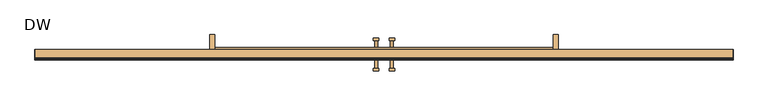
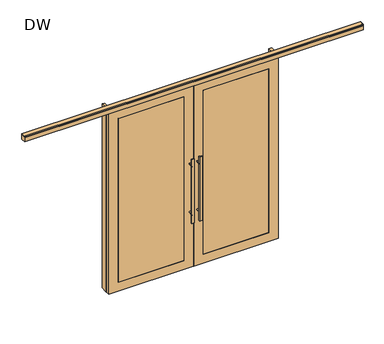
"""IFC4 building model written with IfcOpenShell, lengths in millimetres: door geometry, Mobiliário_Mobiliário de Escritório_Porta Dupla de Correr Vidro Duplo com Persiana - DW_Marelli : DW."""

from ifc_helpers import new_model, si_unit, point, frame, frame_2d, origin, origin_with_axes, place, context, project, spatial, polyline, circle_curve, trimmed, segment, composite_curve, outline, extrude, source, transform, mapped, element, save


def dw_8a9411e3(model_context):
    return source(origin(), model_context, "Body", "SweptSolid", [
        extrude(outline(polyline([(348.5735443, -15.0), (378.5735443, -15.0), (378.5735443, -100.0), (348.5735443, -100.0), (348.5735443, -15.0)])), origin_with_axes(), (0.0, 0.0, 1.0), 2300.0),
        extrude(outline(polyline([(2348.5735443, -15.0), (2348.5735443, -100.0), (2318.5735443, -100.0), (2318.5735443, -15.0), (2348.5735443, -15.0)])), origin_with_axes(), (0.0, 0.0, 1.0), 2300.0),
        extrude(outline(polyline([(1287.4735443, -223.7), (1287.4735443, -208.7), (1317.4735443, -208.7), (1317.4735443, -223.7), (1287.4735443, -223.7)])), frame((0.0, 0.0, 600.0), z_axis=(0.0, 0.0, 1.0), x_axis=(1.0, 0.0, 0.0)), (0.0, 0.0, 1.0), 800.0),
        extrude(outline(composite_curve([segment(trimmed(circle_curve(frame_2d((698.0, 1303.6014077)), 8.0), [point((698.0, 1295.6014077))], [point((698.0, 1311.6014077))], False, "CARTESIAN"), True, "CONTINUOUS"), segment(trimmed(circle_curve(frame_2d((698.0, 1303.6014077)), 8.0), [point((698.0, 1311.6014077))], [point((698.0, 1295.6014077))], False, "CARTESIAN"), True, "CONTINUOUS")], self_intersect=False)), frame((0.0, -208.7, 0.0), z_axis=(0.0, 1.0, 0.0), x_axis=(0.0, 0.0, 1.0)), (0.0, 0.0, 1.0), 58.7),
        extrude(outline(composite_curve([segment(trimmed(circle_curve(frame_2d((1302.0, 1303.6014077)), 8.0), [point((1302.0, 1295.6014077))], [point((1302.0, 1311.6014077))], False, "CARTESIAN"), True, "CONTINUOUS"), segment(trimmed(circle_curve(frame_2d((1302.0, 1303.6014077)), 8.0), [point((1302.0, 1311.6014077))], [point((1302.0, 1295.6014077))], False, "CARTESIAN"), True, "CONTINUOUS")], self_intersect=False)), frame((0.0, -208.7, 0.0), z_axis=(0.0, 1.0, 0.0), x_axis=(0.0, 0.0, 1.0)), (0.0, 0.0, 1.0), 58.7),
        extrude(outline(polyline([(1287.4735443, -34.3), (1317.4735443, -34.3), (1317.4735443, -49.3), (1287.4735443, -49.3), (1287.4735443, -34.3)])), frame((0.0, 0.0, 600.0), z_axis=(0.0, 0.0, 1.0), x_axis=(1.0, 0.0, 0.0)), (0.0, 0.0, 1.0), 800.0),
        extrude(outline(composite_curve([segment(trimmed(circle_curve(frame_2d((698.0, 1303.6014077)), 8.0), [point((698.0, 1295.6014077))], [point((698.0, 1311.6014077))], False, "CARTESIAN"), True, "CONTINUOUS"), segment(trimmed(circle_curve(frame_2d((698.0, 1303.6014077)), 8.0), [point((698.0, 1311.6014077))], [point((698.0, 1295.6014077))], False, "CARTESIAN"), True, "CONTINUOUS")], self_intersect=False)), frame((0.0, -108.0, 0.0), z_axis=(0.0, 1.0, 0.0), x_axis=(0.0, 0.0, 1.0)), (0.0, 0.0, 1.0), 58.7),
        extrude(outline(composite_curve([segment(trimmed(circle_curve(frame_2d((1302.0, 1303.6014077)), 8.0), [point((1302.0, 1295.6014077))], [point((1302.0, 1311.6014077))], False, "CARTESIAN"), True, "CONTINUOUS"), segment(trimmed(circle_curve(frame_2d((1302.0, 1303.6014077)), 8.0), [point((1302.0, 1311.6014077))], [point((1302.0, 1295.6014077))], False, "CARTESIAN"), True, "CONTINUOUS")], self_intersect=False)), frame((0.0, -108.0, 0.0), z_axis=(0.0, 1.0, 0.0), x_axis=(0.0, 0.0, 1.0)), (0.0, 0.0, 1.0), 58.7),
        extrude(outline(polyline([(1409.6735443, -223.7), (1379.6735443, -223.7), (1379.6735443, -208.7), (1409.6735443, -208.7), (1409.6735443, -223.7)])), frame((0.0, 0.0, 600.0), z_axis=(0.0, 0.0, 1.0), x_axis=(1.0, 0.0, 0.0)), (0.0, 0.0, 1.0), 800.0),
        extrude(outline(composite_curve([segment(trimmed(circle_curve(frame_2d((698.0, 1393.545681)), 8.0), [point((698.0, 1401.545681))], [point((698.0, 1385.545681))], False, "CARTESIAN"), True, "CONTINUOUS"), segment(trimmed(circle_curve(frame_2d((698.0, 1393.545681)), 8.0), [point((698.0, 1385.545681))], [point((698.0, 1401.545681))], False, "CARTESIAN"), True, "CONTINUOUS")], self_intersect=False)), frame((0.0, -208.7, 0.0), z_axis=(0.0, 1.0, 0.0), x_axis=(0.0, 0.0, 1.0)), (0.0, 0.0, 1.0), 58.7),
        extrude(outline(composite_curve([segment(trimmed(circle_curve(frame_2d((1302.0, 1393.545681)), 8.0), [point((1302.0, 1401.545681))], [point((1302.0, 1385.545681))], False, "CARTESIAN"), True, "CONTINUOUS"), segment(trimmed(circle_curve(frame_2d((1302.0, 1393.545681)), 8.0), [point((1302.0, 1385.545681))], [point((1302.0, 1401.545681))], False, "CARTESIAN"), True, "CONTINUOUS")], self_intersect=False)), frame((0.0, -208.7, 0.0), z_axis=(0.0, 1.0, 0.0), x_axis=(0.0, 0.0, 1.0)), (0.0, 0.0, 1.0), 58.7),
        extrude(outline(polyline([(1409.6735443, -34.3), (1409.6735443, -49.3), (1379.6735443, -49.3), (1379.6735443, -34.3), (1409.6735443, -34.3)])), frame((0.0, 0.0, 600.0), z_axis=(0.0, 0.0, 1.0), x_axis=(1.0, 0.0, 0.0)), (0.0, 0.0, 1.0), 800.0),
        extrude(outline(composite_curve([segment(trimmed(circle_curve(frame_2d((698.0, 1393.545681)), 8.0), [point((698.0, 1401.545681))], [point((698.0, 1385.545681))], False, "CARTESIAN"), True, "CONTINUOUS"), segment(trimmed(circle_curve(frame_2d((698.0, 1393.545681)), 8.0), [point((698.0, 1385.545681))], [point((698.0, 1401.545681))], False, "CARTESIAN"), True, "CONTINUOUS")], self_intersect=False)), frame((0.0, -108.0, 0.0), z_axis=(0.0, 1.0, 0.0), x_axis=(0.0, 0.0, 1.0)), (0.0, 0.0, 1.0), 58.7),
        extrude(outline(composite_curve([segment(trimmed(circle_curve(frame_2d((1302.0, 1393.545681)), 8.0), [point((1302.0, 1401.545681))], [point((1302.0, 1385.545681))], False, "CARTESIAN"), True, "CONTINUOUS"), segment(trimmed(circle_curve(frame_2d((1302.0, 1393.545681)), 8.0), [point((1302.0, 1385.545681))], [point((1302.0, 1401.545681))], False, "CARTESIAN"), True, "CONTINUOUS")], self_intersect=False)), frame((0.0, -108.0, 0.0), z_axis=(0.0, 1.0, 0.0), x_axis=(0.0, 0.0, 1.0)), (0.0, 0.0, 1.0), 58.7),
        extrude(outline(polyline([(2270.0, 348.5735443), (2.0, 348.5735443), (2.0, 1345.5735443), (2270.0, 1345.5735443), (2270.0, 348.5735443)]), holes=[polyline([(2160.0, 1235.5735443), (112.0, 1235.5735443), (112.0, 458.5735443), (2160.0, 458.5735443), (2160.0, 1235.5735443)])]), frame((0.0, -150.0, 0.0), z_axis=(0.0, 1.0, 0.0), x_axis=(0.0, 0.0, 1.0)), (0.0, 0.0, 1.0), 42.0),
        extrude(outline(polyline([(2270.0, 1351.5735443), (2.0, 1351.5735443), (2.0, 2348.5735443), (2270.0, 2348.5735443), (2270.0, 1351.5735443)]), holes=[polyline([(2160.0, 2238.5735443), (112.0, 2238.5735443), (112.0, 1461.5735443), (2160.0, 1461.5735443), (2160.0, 2238.5735443)])]), frame((0.0, -150.0, 0.0), z_axis=(0.0, 1.0, 0.0), x_axis=(0.0, 0.0, 1.0)), (0.0, 0.0, 1.0), 42.0),
        extrude(outline(polyline([(1235.5735443, -141.5), (1235.5735443, -147.5), (458.5735443, -147.5), (458.5735443, -141.5), (1235.5735443, -141.5)])), frame((0.0, 0.0, 112.0), z_axis=(0.0, 0.0, 1.0), x_axis=(1.0, 0.0, 0.0)), (0.0, 0.0, 1.0), 2048.0),
        extrude(outline(polyline([(1235.5735443, -116.5), (458.5735443, -116.5), (458.5735443, -110.5), (1235.5735443, -110.5), (1235.5735443, -116.5)])), frame((0.0, 0.0, 112.0), z_axis=(0.0, 0.0, 1.0), x_axis=(1.0, 0.0, 0.0)), (0.0, 0.0, 1.0), 2048.0),
        extrude(outline(polyline([(1461.5735443, -141.5), (2238.5735443, -141.5), (2238.5735443, -147.5), (1461.5735443, -147.5), (1461.5735443, -141.5)])), frame((0.0, 0.0, 112.0), z_axis=(0.0, 0.0, 1.0), x_axis=(1.0, 0.0, 0.0)), (0.0, 0.0, 1.0), 2048.0),
        extrude(outline(polyline([(1461.5735443, -116.5), (1461.5735443, -110.5), (2238.5735443, -110.5), (2238.5735443, -116.5), (1461.5735443, -116.5)])), frame((0.0, 0.0, 112.0), z_axis=(0.0, 0.0, 1.0), x_axis=(1.0, 0.0, 0.0)), (0.0, 0.0, 1.0), 2048.0),
        extrude(outline(polyline([(1235.5735443, -122.1216022), (1235.5735443, -138.1216022), (458.5735443, -138.1216022), (458.5735443, -122.1216022), (1235.5735443, -122.1216022)])), frame((0.0, 0.0, 1181.2), z_axis=(0.0, 0.0, 1.0), x_axis=(1.0, 0.0, 0.0)), (0.0, 0.0, 1.0), 0.8),
        extrude(outline(polyline([(1235.5735443, -122.1216022), (1235.5735443, -138.1216022), (458.5735443, -138.1216022), (458.5735443, -122.1216022), (1235.5735443, -122.1216022)])), frame((0.0, 0.0, 1151.2), z_axis=(0.0, 0.0, 1.0), x_axis=(1.0, 0.0, 0.0)), (0.0, 0.0, 1.0), 0.8),
        extrude(outline(polyline([(1235.5735443, -122.1216022), (1235.5735443, -138.1216022), (458.5735443, -138.1216022), (458.5735443, -122.1216022), (1235.5735443, -122.1216022)])), frame((0.0, 0.0, 1121.2), z_axis=(0.0, 0.0, 1.0), x_axis=(1.0, 0.0, 0.0)), (0.0, 0.0, 1.0), 0.8),
        extrude(outline(polyline([(1235.5735443, -122.1216022), (1235.5735443, -138.1216022), (458.5735443, -138.1216022), (458.5735443, -122.1216022), (1235.5735443, -122.1216022)])), frame((0.0, 0.0, 1091.2), z_axis=(0.0, 0.0, 1.0), x_axis=(1.0, 0.0, 0.0)), (0.0, 0.0, 1.0), 0.8),
        extrude(outline(polyline([(1235.5735443, -122.1216022), (1235.5735443, -138.1216022), (458.5735443, -138.1216022), (458.5735443, -122.1216022), (1235.5735443, -122.1216022)])), frame((0.0, 0.0, 1061.2), z_axis=(0.0, 0.0, 1.0), x_axis=(1.0, 0.0, 0.0)), (0.0, 0.0, 1.0), 0.8),
        extrude(outline(polyline([(1235.5735443, -122.1216022), (1235.5735443, -138.1216022), (458.5735443, -138.1216022), (458.5735443, -122.1216022), (1235.5735443, -122.1216022)])), frame((0.0, 0.0, 1031.2), z_axis=(0.0, 0.0, 1.0), x_axis=(1.0, 0.0, 0.0)), (0.0, 0.0, 1.0), 0.8),
        extrude(outline(polyline([(1235.5735443, -122.1216022), (1235.5735443, -138.1216022), (458.5735443, -138.1216022), (458.5735443, -122.1216022), (1235.5735443, -122.1216022)])), frame((0.0, 0.0, 1001.2), z_axis=(0.0, 0.0, 1.0), x_axis=(1.0, 0.0, 0.0)), (0.0, 0.0, 1.0), 0.8),
        extrude(outline(polyline([(1235.5735443, -122.1216022), (1235.5735443, -138.1216022), (458.5735443, -138.1216022), (458.5735443, -122.1216022), (1235.5735443, -122.1216022)])), frame((0.0, 0.0, 971.2), z_axis=(0.0, 0.0, 1.0), x_axis=(1.0, 0.0, 0.0)), (0.0, 0.0, 1.0), 0.8),
        extrude(outline(polyline([(1235.5735443, -122.1216022), (1235.5735443, -138.1216022), (458.5735443, -138.1216022), (458.5735443, -122.1216022), (1235.5735443, -122.1216022)])), frame((0.0, 0.0, 911.2), z_axis=(0.0, 0.0, 1.0), x_axis=(1.0, 0.0, 0.0)), (0.0, 0.0, 1.0), 0.8),
        extrude(outline(polyline([(1235.5735443, -122.1216022), (1235.5735443, -138.1216022), (458.5735443, -138.1216022), (458.5735443, -122.1216022), (1235.5735443, -122.1216022)])), frame((0.0, 0.0, 941.2), z_axis=(0.0, 0.0, 1.0), x_axis=(1.0, 0.0, 0.0)), (0.0, 0.0, 1.0), 0.8),
        extrude(outline(polyline([(1235.5735443, -122.1216022), (1235.5735443, -138.1216022), (458.5735443, -138.1216022), (458.5735443, -122.1216022), (1235.5735443, -122.1216022)])), frame((0.0, 0.0, 221.2), z_axis=(0.0, 0.0, 1.0), x_axis=(1.0, 0.0, 0.0)), (0.0, 0.0, 1.0), 0.8),
        extrude(outline(polyline([(1235.5735443, -122.1216022), (1235.5735443, -138.1216022), (458.5735443, -138.1216022), (458.5735443, -122.1216022), (1235.5735443, -122.1216022)])), frame((0.0, 0.0, 251.2), z_axis=(0.0, 0.0, 1.0), x_axis=(1.0, 0.0, 0.0)), (0.0, 0.0, 1.0), 0.8),
        extrude(outline(polyline([(1235.5735443, -122.1216022), (1235.5735443, -138.1216022), (458.5735443, -138.1216022), (458.5735443, -122.1216022), (1235.5735443, -122.1216022)])), frame((0.0, 0.0, 281.2), z_axis=(0.0, 0.0, 1.0), x_axis=(1.0, 0.0, 0.0)), (0.0, 0.0, 1.0), 0.8),
        extrude(outline(polyline([(1235.5735443, -122.1216022), (1235.5735443, -138.1216022), (458.5735443, -138.1216022), (458.5735443, -122.1216022), (1235.5735443, -122.1216022)])), frame((0.0, 0.0, 311.2), z_axis=(0.0, 0.0, 1.0), x_axis=(1.0, 0.0, 0.0)), (0.0, 0.0, 1.0), 0.8),
        extrude(outline(polyline([(1235.5735443, -122.1216022), (1235.5735443, -138.1216022), (458.5735443, -138.1216022), (458.5735443, -122.1216022), (1235.5735443, -122.1216022)])), frame((0.0, 0.0, 341.2), z_axis=(0.0, 0.0, 1.0), x_axis=(1.0, 0.0, 0.0)), (0.0, 0.0, 1.0), 0.8),
        extrude(outline(polyline([(1235.5735443, -122.1216022), (1235.5735443, -138.1216022), (458.5735443, -138.1216022), (458.5735443, -122.1216022), (1235.5735443, -122.1216022)])), frame((0.0, 0.0, 371.2), z_axis=(0.0, 0.0, 1.0), x_axis=(1.0, 0.0, 0.0)), (0.0, 0.0, 1.0), 0.8),
        extrude(outline(polyline([(1235.5735443, -122.1216022), (1235.5735443, -138.1216022), (458.5735443, -138.1216022), (458.5735443, -122.1216022), (1235.5735443, -122.1216022)])), frame((0.0, 0.0, 401.2), z_axis=(0.0, 0.0, 1.0), x_axis=(1.0, 0.0, 0.0)), (0.0, 0.0, 1.0), 0.8),
        extrude(outline(polyline([(1235.5735443, -122.1216022), (1235.5735443, -138.1216022), (458.5735443, -138.1216022), (458.5735443, -122.1216022), (1235.5735443, -122.1216022)])), frame((0.0, 0.0, 431.2), z_axis=(0.0, 0.0, 1.0), x_axis=(1.0, 0.0, 0.0)), (0.0, 0.0, 1.0), 0.8),
        extrude(outline(polyline([(1235.5735443, -122.1216022), (1235.5735443, -138.1216022), (458.5735443, -138.1216022), (458.5735443, -122.1216022), (1235.5735443, -122.1216022)])), frame((0.0, 0.0, 461.2), z_axis=(0.0, 0.0, 1.0), x_axis=(1.0, 0.0, 0.0)), (0.0, 0.0, 1.0), 0.8),
        extrude(outline(polyline([(1235.5735443, -122.1216022), (1235.5735443, -138.1216022), (458.5735443, -138.1216022), (458.5735443, -122.1216022), (1235.5735443, -122.1216022)])), frame((0.0, 0.0, 491.2), z_axis=(0.0, 0.0, 1.0), x_axis=(1.0, 0.0, 0.0)), (0.0, 0.0, 1.0), 0.8),
        extrude(outline(polyline([(1235.5735443, -122.1216022), (1235.5735443, -138.1216022), (458.5735443, -138.1216022), (458.5735443, -122.1216022), (1235.5735443, -122.1216022)])), frame((0.0, 0.0, 521.2), z_axis=(0.0, 0.0, 1.0), x_axis=(1.0, 0.0, 0.0)), (0.0, 0.0, 1.0), 0.8),
        extrude(outline(polyline([(1235.5735443, -122.1216022), (1235.5735443, -138.1216022), (458.5735443, -138.1216022), (458.5735443, -122.1216022), (1235.5735443, -122.1216022)])), frame((0.0, 0.0, 551.2), z_axis=(0.0, 0.0, 1.0), x_axis=(1.0, 0.0, 0.0)), (0.0, 0.0, 1.0), 0.8),
        extrude(outline(polyline([(1235.5735443, -122.1216022), (1235.5735443, -138.1216022), (458.5735443, -138.1216022), (458.5735443, -122.1216022), (1235.5735443, -122.1216022)])), frame((0.0, 0.0, 581.2), z_axis=(0.0, 0.0, 1.0), x_axis=(1.0, 0.0, 0.0)), (0.0, 0.0, 1.0), 0.8),
        extrude(outline(polyline([(1235.5735443, -122.1216022), (1235.5735443, -138.1216022), (458.5735443, -138.1216022), (458.5735443, -122.1216022), (1235.5735443, -122.1216022)])), frame((0.0, 0.0, 611.2), z_axis=(0.0, 0.0, 1.0), x_axis=(1.0, 0.0, 0.0)), (0.0, 0.0, 1.0), 0.8),
        extrude(outline(polyline([(1235.5735443, -122.1216022), (1235.5735443, -138.1216022), (458.5735443, -138.1216022), (458.5735443, -122.1216022), (1235.5735443, -122.1216022)])), frame((0.0, 0.0, 641.2), z_axis=(0.0, 0.0, 1.0), x_axis=(1.0, 0.0, 0.0)), (0.0, 0.0, 1.0), 0.8),
        extrude(outline(polyline([(1235.5735443, -122.1216022), (1235.5735443, -138.1216022), (458.5735443, -138.1216022), (458.5735443, -122.1216022), (1235.5735443, -122.1216022)])), frame((0.0, 0.0, 671.2), z_axis=(0.0, 0.0, 1.0), x_axis=(1.0, 0.0, 0.0)), (0.0, 0.0, 1.0), 0.8),
        extrude(outline(polyline([(1235.5735443, -122.1216022), (1235.5735443, -138.1216022), (458.5735443, -138.1216022), (458.5735443, -122.1216022), (1235.5735443, -122.1216022)])), frame((0.0, 0.0, 701.2), z_axis=(0.0, 0.0, 1.0), x_axis=(1.0, 0.0, 0.0)), (0.0, 0.0, 1.0), 0.8),
        extrude(outline(polyline([(1235.5735443, -122.1216022), (1235.5735443, -138.1216022), (458.5735443, -138.1216022), (458.5735443, -122.1216022), (1235.5735443, -122.1216022)])), frame((0.0, 0.0, 731.2), z_axis=(0.0, 0.0, 1.0), x_axis=(1.0, 0.0, 0.0)), (0.0, 0.0, 1.0), 0.8),
        extrude(outline(polyline([(1235.5735443, -122.1216022), (1235.5735443, -138.1216022), (458.5735443, -138.1216022), (458.5735443, -122.1216022), (1235.5735443, -122.1216022)])), frame((0.0, 0.0, 761.2), z_axis=(0.0, 0.0, 1.0), x_axis=(1.0, 0.0, 0.0)), (0.0, 0.0, 1.0), 0.8),
        extrude(outline(polyline([(1235.5735443, -122.1216022), (1235.5735443, -138.1216022), (458.5735443, -138.1216022), (458.5735443, -122.1216022), (1235.5735443, -122.1216022)])), frame((0.0, 0.0, 791.2), z_axis=(0.0, 0.0, 1.0), x_axis=(1.0, 0.0, 0.0)), (0.0, 0.0, 1.0), 0.8),
        extrude(outline(polyline([(1235.5735443, -122.1216022), (1235.5735443, -138.1216022), (458.5735443, -138.1216022), (458.5735443, -122.1216022), (1235.5735443, -122.1216022)])), frame((0.0, 0.0, 821.2), z_axis=(0.0, 0.0, 1.0), x_axis=(1.0, 0.0, 0.0)), (0.0, 0.0, 1.0), 0.8),
        extrude(outline(polyline([(1235.5735443, -122.1216022), (1235.5735443, -138.1216022), (458.5735443, -138.1216022), (458.5735443, -122.1216022), (1235.5735443, -122.1216022)])), frame((0.0, 0.0, 851.2), z_axis=(0.0, 0.0, 1.0), x_axis=(1.0, 0.0, 0.0)), (0.0, 0.0, 1.0), 0.8),
        extrude(outline(polyline([(1235.5735443, -122.1216022), (1235.5735443, -138.1216022), (458.5735443, -138.1216022), (458.5735443, -122.1216022), (1235.5735443, -122.1216022)])), frame((0.0, 0.0, 881.2), z_axis=(0.0, 0.0, 1.0), x_axis=(1.0, 0.0, 0.0)), (0.0, 0.0, 1.0), 0.8),
        extrude(outline(polyline([(1235.5735443, -122.1216022), (1235.5735443, -138.1216022), (458.5735443, -138.1216022), (458.5735443, -122.1216022), (1235.5735443, -122.1216022)])), frame((0.0, 0.0, 191.2), z_axis=(0.0, 0.0, 1.0), x_axis=(1.0, 0.0, 0.0)), (0.0, 0.0, 1.0), 0.8),
        extrude(outline(polyline([(1235.5735443, -122.1216022), (1235.5735443, -138.1216022), (458.5735443, -138.1216022), (458.5735443, -122.1216022), (1235.5735443, -122.1216022)])), frame((0.0, 0.0, 161.2), z_axis=(0.0, 0.0, 1.0), x_axis=(1.0, 0.0, 0.0)), (0.0, 0.0, 1.0), 0.8),
        extrude(outline(polyline([(1235.5735443, -122.1216022), (1235.5735443, -138.1216022), (458.5735443, -138.1216022), (458.5735443, -122.1216022), (1235.5735443, -122.1216022)])), frame((0.0, 0.0, 131.2), z_axis=(0.0, 0.0, 1.0), x_axis=(1.0, 0.0, 0.0)), (0.0, 0.0, 1.0), 0.8),
        extrude(outline(polyline([(1235.5735443, -122.1216022), (1235.5735443, -138.1216022), (458.5735443, -138.1216022), (458.5735443, -122.1216022), (1235.5735443, -122.1216022)])), frame((0.0, 0.0, 2111.2), z_axis=(0.0, 0.0, 1.0), x_axis=(1.0, 0.0, 0.0)), (0.0, 0.0, 1.0), 0.8),
        extrude(outline(polyline([(1235.5735443, -122.1216022), (1235.5735443, -138.1216022), (458.5735443, -138.1216022), (458.5735443, -122.1216022), (1235.5735443, -122.1216022)])), frame((0.0, 0.0, 2081.2), z_axis=(0.0, 0.0, 1.0), x_axis=(1.0, 0.0, 0.0)), (0.0, 0.0, 1.0), 0.8),
        extrude(outline(polyline([(1235.5735443, -122.1216022), (1235.5735443, -138.1216022), (458.5735443, -138.1216022), (458.5735443, -122.1216022), (1235.5735443, -122.1216022)])), frame((0.0, 0.0, 2051.2), z_axis=(0.0, 0.0, 1.0), x_axis=(1.0, 0.0, 0.0)), (0.0, 0.0, 1.0), 0.8),
        extrude(outline(polyline([(1235.5735443, -122.1216022), (1235.5735443, -138.1216022), (458.5735443, -138.1216022), (458.5735443, -122.1216022), (1235.5735443, -122.1216022)])), frame((0.0, 0.0, 2021.2), z_axis=(0.0, 0.0, 1.0), x_axis=(1.0, 0.0, 0.0)), (0.0, 0.0, 1.0), 0.8),
        extrude(outline(polyline([(1235.5735443, -122.1216022), (1235.5735443, -138.1216022), (458.5735443, -138.1216022), (458.5735443, -122.1216022), (1235.5735443, -122.1216022)])), frame((0.0, 0.0, 1991.2), z_axis=(0.0, 0.0, 1.0), x_axis=(1.0, 0.0, 0.0)), (0.0, 0.0, 1.0), 0.8),
        extrude(outline(polyline([(1235.5735443, -122.1216022), (1235.5735443, -138.1216022), (458.5735443, -138.1216022), (458.5735443, -122.1216022), (1235.5735443, -122.1216022)])), frame((0.0, 0.0, 1961.2), z_axis=(0.0, 0.0, 1.0), x_axis=(1.0, 0.0, 0.0)), (0.0, 0.0, 1.0), 0.8),
        extrude(outline(polyline([(1235.5735443, -122.1216022), (1235.5735443, -138.1216022), (458.5735443, -138.1216022), (458.5735443, -122.1216022), (1235.5735443, -122.1216022)])), frame((0.0, 0.0, 1931.2), z_axis=(0.0, 0.0, 1.0), x_axis=(1.0, 0.0, 0.0)), (0.0, 0.0, 1.0), 0.8),
        extrude(outline(polyline([(1235.5735443, -122.1216022), (1235.5735443, -138.1216022), (458.5735443, -138.1216022), (458.5735443, -122.1216022), (1235.5735443, -122.1216022)])), frame((0.0, 0.0, 1901.2), z_axis=(0.0, 0.0, 1.0), x_axis=(1.0, 0.0, 0.0)), (0.0, 0.0, 1.0), 0.8),
        extrude(outline(polyline([(1235.5735443, -122.1216022), (1235.5735443, -138.1216022), (458.5735443, -138.1216022), (458.5735443, -122.1216022), (1235.5735443, -122.1216022)])), frame((0.0, 0.0, 1871.2), z_axis=(0.0, 0.0, 1.0), x_axis=(1.0, 0.0, 0.0)), (0.0, 0.0, 1.0), 0.8),
        extrude(outline(polyline([(1235.5735443, -122.1216022), (1235.5735443, -138.1216022), (458.5735443, -138.1216022), (458.5735443, -122.1216022), (1235.5735443, -122.1216022)])), frame((0.0, 0.0, 1841.2), z_axis=(0.0, 0.0, 1.0), x_axis=(1.0, 0.0, 0.0)), (0.0, 0.0, 1.0), 0.8),
        extrude(outline(polyline([(1235.5735443, -122.1216022), (1235.5735443, -138.1216022), (458.5735443, -138.1216022), (458.5735443, -122.1216022), (1235.5735443, -122.1216022)])), frame((0.0, 0.0, 1811.2), z_axis=(0.0, 0.0, 1.0), x_axis=(1.0, 0.0, 0.0)), (0.0, 0.0, 1.0), 0.8),
        extrude(outline(polyline([(1235.5735443, -122.1216022), (1235.5735443, -138.1216022), (458.5735443, -138.1216022), (458.5735443, -122.1216022), (1235.5735443, -122.1216022)])), frame((0.0, 0.0, 1781.2), z_axis=(0.0, 0.0, 1.0), x_axis=(1.0, 0.0, 0.0)), (0.0, 0.0, 1.0), 0.8),
        extrude(outline(polyline([(1235.5735443, -122.1216022), (1235.5735443, -138.1216022), (458.5735443, -138.1216022), (458.5735443, -122.1216022), (1235.5735443, -122.1216022)])), frame((0.0, 0.0, 1751.2), z_axis=(0.0, 0.0, 1.0), x_axis=(1.0, 0.0, 0.0)), (0.0, 0.0, 1.0), 0.8),
        extrude(outline(polyline([(1235.5735443, -122.1216022), (1235.5735443, -138.1216022), (458.5735443, -138.1216022), (458.5735443, -122.1216022), (1235.5735443, -122.1216022)])), frame((0.0, 0.0, 1721.2), z_axis=(0.0, 0.0, 1.0), x_axis=(1.0, 0.0, 0.0)), (0.0, 0.0, 1.0), 0.8),
        extrude(outline(polyline([(1235.5735443, -122.1216022), (1235.5735443, -138.1216022), (458.5735443, -138.1216022), (458.5735443, -122.1216022), (1235.5735443, -122.1216022)])), frame((0.0, 0.0, 1691.2), z_axis=(0.0, 0.0, 1.0), x_axis=(1.0, 0.0, 0.0)), (0.0, 0.0, 1.0), 0.8),
        extrude(outline(polyline([(1235.5735443, -122.1216022), (1235.5735443, -138.1216022), (458.5735443, -138.1216022), (458.5735443, -122.1216022), (1235.5735443, -122.1216022)])), frame((0.0, 0.0, 1661.2), z_axis=(0.0, 0.0, 1.0), x_axis=(1.0, 0.0, 0.0)), (0.0, 0.0, 1.0), 0.8),
        extrude(outline(polyline([(1235.5735443, -122.1216022), (1235.5735443, -138.1216022), (458.5735443, -138.1216022), (458.5735443, -122.1216022), (1235.5735443, -122.1216022)])), frame((0.0, 0.0, 1631.2), z_axis=(0.0, 0.0, 1.0), x_axis=(1.0, 0.0, 0.0)), (0.0, 0.0, 1.0), 0.8),
        extrude(outline(polyline([(1235.5735443, -122.1216022), (1235.5735443, -138.1216022), (458.5735443, -138.1216022), (458.5735443, -122.1216022), (1235.5735443, -122.1216022)])), frame((0.0, 0.0, 1601.2), z_axis=(0.0, 0.0, 1.0), x_axis=(1.0, 0.0, 0.0)), (0.0, 0.0, 1.0), 0.8),
        extrude(outline(polyline([(1235.5735443, -122.1216022), (1235.5735443, -138.1216022), (458.5735443, -138.1216022), (458.5735443, -122.1216022), (1235.5735443, -122.1216022)])), frame((0.0, 0.0, 1571.2), z_axis=(0.0, 0.0, 1.0), x_axis=(1.0, 0.0, 0.0)), (0.0, 0.0, 1.0), 0.8),
        extrude(outline(polyline([(1235.5735443, -122.1216022), (1235.5735443, -138.1216022), (458.5735443, -138.1216022), (458.5735443, -122.1216022), (1235.5735443, -122.1216022)])), frame((0.0, 0.0, 1541.2), z_axis=(0.0, 0.0, 1.0), x_axis=(1.0, 0.0, 0.0)), (0.0, 0.0, 1.0), 0.8),
        extrude(outline(polyline([(1235.5735443, -122.1216022), (1235.5735443, -138.1216022), (458.5735443, -138.1216022), (458.5735443, -122.1216022), (1235.5735443, -122.1216022)])), frame((0.0, 0.0, 1511.2), z_axis=(0.0, 0.0, 1.0), x_axis=(1.0, 0.0, 0.0)), (0.0, 0.0, 1.0), 0.8),
        extrude(outline(polyline([(1235.5735443, -122.1216022), (1235.5735443, -138.1216022), (458.5735443, -138.1216022), (458.5735443, -122.1216022), (1235.5735443, -122.1216022)])), frame((0.0, 0.0, 1481.2), z_axis=(0.0, 0.0, 1.0), x_axis=(1.0, 0.0, 0.0)), (0.0, 0.0, 1.0), 0.8),
        extrude(outline(polyline([(1235.5735443, -122.1216022), (1235.5735443, -138.1216022), (458.5735443, -138.1216022), (458.5735443, -122.1216022), (1235.5735443, -122.1216022)])), frame((0.0, 0.0, 1451.2), z_axis=(0.0, 0.0, 1.0), x_axis=(1.0, 0.0, 0.0)), (0.0, 0.0, 1.0), 0.8),
        extrude(outline(polyline([(1235.5735443, -122.1216022), (1235.5735443, -138.1216022), (458.5735443, -138.1216022), (458.5735443, -122.1216022), (1235.5735443, -122.1216022)])), frame((0.0, 0.0, 1421.2), z_axis=(0.0, 0.0, 1.0), x_axis=(1.0, 0.0, 0.0)), (0.0, 0.0, 1.0), 0.8),
        extrude(outline(polyline([(1235.5735443, -122.1216022), (1235.5735443, -138.1216022), (458.5735443, -138.1216022), (458.5735443, -122.1216022), (1235.5735443, -122.1216022)])), frame((0.0, 0.0, 1391.2), z_axis=(0.0, 0.0, 1.0), x_axis=(1.0, 0.0, 0.0)), (0.0, 0.0, 1.0), 0.8),
        extrude(outline(polyline([(1235.5735443, -122.1216022), (1235.5735443, -138.1216022), (458.5735443, -138.1216022), (458.5735443, -122.1216022), (1235.5735443, -122.1216022)])), frame((0.0, 0.0, 1361.2), z_axis=(0.0, 0.0, 1.0), x_axis=(1.0, 0.0, 0.0)), (0.0, 0.0, 1.0), 0.8),
        extrude(outline(polyline([(1235.5735443, -122.1216022), (1235.5735443, -138.1216022), (458.5735443, -138.1216022), (458.5735443, -122.1216022), (1235.5735443, -122.1216022)])), frame((0.0, 0.0, 1331.2), z_axis=(0.0, 0.0, 1.0), x_axis=(1.0, 0.0, 0.0)), (0.0, 0.0, 1.0), 0.8),
        extrude(outline(polyline([(1235.5735443, -122.1216022), (1235.5735443, -138.1216022), (458.5735443, -138.1216022), (458.5735443, -122.1216022), (1235.5735443, -122.1216022)])), frame((0.0, 0.0, 1301.2), z_axis=(0.0, 0.0, 1.0), x_axis=(1.0, 0.0, 0.0)), (0.0, 0.0, 1.0), 0.8),
        extrude(outline(polyline([(1235.5735443, -122.1216022), (1235.5735443, -138.1216022), (458.5735443, -138.1216022), (458.5735443, -122.1216022), (1235.5735443, -122.1216022)])), frame((0.0, 0.0, 1271.2), z_axis=(0.0, 0.0, 1.0), x_axis=(1.0, 0.0, 0.0)), (0.0, 0.0, 1.0), 0.8),
        extrude(outline(polyline([(1235.5735443, -122.1216022), (1235.5735443, -138.1216022), (458.5735443, -138.1216022), (458.5735443, -122.1216022), (1235.5735443, -122.1216022)])), frame((0.0, 0.0, 1241.2), z_axis=(0.0, 0.0, 1.0), x_axis=(1.0, 0.0, 0.0)), (0.0, 0.0, 1.0), 0.8),
        extrude(outline(polyline([(1235.5735443, -122.1216022), (1235.5735443, -138.1216022), (458.5735443, -138.1216022), (458.5735443, -122.1216022), (1235.5735443, -122.1216022)])), frame((0.0, 0.0, 1211.2), z_axis=(0.0, 0.0, 1.0), x_axis=(1.0, 0.0, 0.0)), (0.0, 0.0, 1.0), 0.8),
        extrude(outline(polyline([(1461.5735443, -138.1216022), (1461.5735443, -122.1216022), (2238.5735443, -122.1216022), (2238.5735443, -138.1216022), (1461.5735443, -138.1216022)])), frame((0.0, 0.0, 1181.2), z_axis=(0.0, 0.0, 1.0), x_axis=(1.0, 0.0, 0.0)), (0.0, 0.0, 1.0), 0.8),
        extrude(outline(polyline([(1461.5735443, -138.1216022), (1461.5735443, -122.1216022), (2238.5735443, -122.1216022), (2238.5735443, -138.1216022), (1461.5735443, -138.1216022)])), frame((0.0, 0.0, 1151.2), z_axis=(0.0, 0.0, 1.0), x_axis=(1.0, 0.0, 0.0)), (0.0, 0.0, 1.0), 0.8),
        extrude(outline(polyline([(1461.5735443, -138.1216022), (1461.5735443, -122.1216022), (2238.5735443, -122.1216022), (2238.5735443, -138.1216022), (1461.5735443, -138.1216022)])), frame((0.0, 0.0, 1121.2), z_axis=(0.0, 0.0, 1.0), x_axis=(1.0, 0.0, 0.0)), (0.0, 0.0, 1.0), 0.8),
        extrude(outline(polyline([(1461.5735443, -138.1216022), (1461.5735443, -122.1216022), (2238.5735443, -122.1216022), (2238.5735443, -138.1216022), (1461.5735443, -138.1216022)])), frame((0.0, 0.0, 1091.2), z_axis=(0.0, 0.0, 1.0), x_axis=(1.0, 0.0, 0.0)), (0.0, 0.0, 1.0), 0.8),
        extrude(outline(polyline([(1461.5735443, -138.1216022), (1461.5735443, -122.1216022), (2238.5735443, -122.1216022), (2238.5735443, -138.1216022), (1461.5735443, -138.1216022)])), frame((0.0, 0.0, 1061.2), z_axis=(0.0, 0.0, 1.0), x_axis=(1.0, 0.0, 0.0)), (0.0, 0.0, 1.0), 0.8),
        extrude(outline(polyline([(1461.5735443, -138.1216022), (1461.5735443, -122.1216022), (2238.5735443, -122.1216022), (2238.5735443, -138.1216022), (1461.5735443, -138.1216022)])), frame((0.0, 0.0, 1031.2), z_axis=(0.0, 0.0, 1.0), x_axis=(1.0, 0.0, 0.0)), (0.0, 0.0, 1.0), 0.8),
        extrude(outline(polyline([(1461.5735443, -138.1216022), (1461.5735443, -122.1216022), (2238.5735443, -122.1216022), (2238.5735443, -138.1216022), (1461.5735443, -138.1216022)])), frame((0.0, 0.0, 1001.2), z_axis=(0.0, 0.0, 1.0), x_axis=(1.0, 0.0, 0.0)), (0.0, 0.0, 1.0), 0.8),
        extrude(outline(polyline([(1461.5735443, -138.1216022), (1461.5735443, -122.1216022), (2238.5735443, -122.1216022), (2238.5735443, -138.1216022), (1461.5735443, -138.1216022)])), frame((0.0, 0.0, 971.2), z_axis=(0.0, 0.0, 1.0), x_axis=(1.0, 0.0, 0.0)), (0.0, 0.0, 1.0), 0.8),
        extrude(outline(polyline([(1461.5735443, -138.1216022), (1461.5735443, -122.1216022), (2238.5735443, -122.1216022), (2238.5735443, -138.1216022), (1461.5735443, -138.1216022)])), frame((0.0, 0.0, 911.2), z_axis=(0.0, 0.0, 1.0), x_axis=(1.0, 0.0, 0.0)), (0.0, 0.0, 1.0), 0.8),
        extrude(outline(polyline([(1461.5735443, -138.1216022), (1461.5735443, -122.1216022), (2238.5735443, -122.1216022), (2238.5735443, -138.1216022), (1461.5735443, -138.1216022)])), frame((0.0, 0.0, 941.2), z_axis=(0.0, 0.0, 1.0), x_axis=(1.0, 0.0, 0.0)), (0.0, 0.0, 1.0), 0.8),
        extrude(outline(polyline([(1461.5735443, -138.1216022), (1461.5735443, -122.1216022), (2238.5735443, -122.1216022), (2238.5735443, -138.1216022), (1461.5735443, -138.1216022)])), frame((0.0, 0.0, 401.2), z_axis=(0.0, 0.0, 1.0), x_axis=(1.0, 0.0, 0.0)), (0.0, 0.0, 1.0), 0.8),
        extrude(outline(polyline([(1461.5735443, -138.1216022), (1461.5735443, -122.1216022), (2238.5735443, -122.1216022), (2238.5735443, -138.1216022), (1461.5735443, -138.1216022)])), frame((0.0, 0.0, 431.2), z_axis=(0.0, 0.0, 1.0), x_axis=(1.0, 0.0, 0.0)), (0.0, 0.0, 1.0), 0.8),
        extrude(outline(polyline([(1461.5735443, -138.1216022), (1461.5735443, -122.1216022), (2238.5735443, -122.1216022), (2238.5735443, -138.1216022), (1461.5735443, -138.1216022)])), frame((0.0, 0.0, 461.2), z_axis=(0.0, 0.0, 1.0), x_axis=(1.0, 0.0, 0.0)), (0.0, 0.0, 1.0), 0.8),
        extrude(outline(polyline([(1461.5735443, -138.1216022), (1461.5735443, -122.1216022), (2238.5735443, -122.1216022), (2238.5735443, -138.1216022), (1461.5735443, -138.1216022)])), frame((0.0, 0.0, 491.2), z_axis=(0.0, 0.0, 1.0), x_axis=(1.0, 0.0, 0.0)), (0.0, 0.0, 1.0), 0.8),
        extrude(outline(polyline([(1461.5735443, -138.1216022), (1461.5735443, -122.1216022), (2238.5735443, -122.1216022), (2238.5735443, -138.1216022), (1461.5735443, -138.1216022)])), frame((0.0, 0.0, 521.2), z_axis=(0.0, 0.0, 1.0), x_axis=(1.0, 0.0, 0.0)), (0.0, 0.0, 1.0), 0.8),
        extrude(outline(polyline([(1461.5735443, -138.1216022), (1461.5735443, -122.1216022), (2238.5735443, -122.1216022), (2238.5735443, -138.1216022), (1461.5735443, -138.1216022)])), frame((0.0, 0.0, 551.2), z_axis=(0.0, 0.0, 1.0), x_axis=(1.0, 0.0, 0.0)), (0.0, 0.0, 1.0), 0.8),
        extrude(outline(polyline([(1461.5735443, -138.1216022), (1461.5735443, -122.1216022), (2238.5735443, -122.1216022), (2238.5735443, -138.1216022), (1461.5735443, -138.1216022)])), frame((0.0, 0.0, 581.2), z_axis=(0.0, 0.0, 1.0), x_axis=(1.0, 0.0, 0.0)), (0.0, 0.0, 1.0), 0.8),
        extrude(outline(polyline([(1461.5735443, -138.1216022), (1461.5735443, -122.1216022), (2238.5735443, -122.1216022), (2238.5735443, -138.1216022), (1461.5735443, -138.1216022)])), frame((0.0, 0.0, 611.2), z_axis=(0.0, 0.0, 1.0), x_axis=(1.0, 0.0, 0.0)), (0.0, 0.0, 1.0), 0.8),
        extrude(outline(polyline([(1461.5735443, -138.1216022), (1461.5735443, -122.1216022), (2238.5735443, -122.1216022), (2238.5735443, -138.1216022), (1461.5735443, -138.1216022)])), frame((0.0, 0.0, 641.2), z_axis=(0.0, 0.0, 1.0), x_axis=(1.0, 0.0, 0.0)), (0.0, 0.0, 1.0), 0.8),
        extrude(outline(polyline([(1461.5735443, -138.1216022), (1461.5735443, -122.1216022), (2238.5735443, -122.1216022), (2238.5735443, -138.1216022), (1461.5735443, -138.1216022)])), frame((0.0, 0.0, 671.2), z_axis=(0.0, 0.0, 1.0), x_axis=(1.0, 0.0, 0.0)), (0.0, 0.0, 1.0), 0.8),
        extrude(outline(polyline([(1461.5735443, -138.1216022), (1461.5735443, -122.1216022), (2238.5735443, -122.1216022), (2238.5735443, -138.1216022), (1461.5735443, -138.1216022)])), frame((0.0, 0.0, 701.2), z_axis=(0.0, 0.0, 1.0), x_axis=(1.0, 0.0, 0.0)), (0.0, 0.0, 1.0), 0.8),
        extrude(outline(polyline([(1461.5735443, -138.1216022), (1461.5735443, -122.1216022), (2238.5735443, -122.1216022), (2238.5735443, -138.1216022), (1461.5735443, -138.1216022)])), frame((0.0, 0.0, 731.2), z_axis=(0.0, 0.0, 1.0), x_axis=(1.0, 0.0, 0.0)), (0.0, 0.0, 1.0), 0.8),
        extrude(outline(polyline([(1461.5735443, -138.1216022), (1461.5735443, -122.1216022), (2238.5735443, -122.1216022), (2238.5735443, -138.1216022), (1461.5735443, -138.1216022)])), frame((0.0, 0.0, 761.2), z_axis=(0.0, 0.0, 1.0), x_axis=(1.0, 0.0, 0.0)), (0.0, 0.0, 1.0), 0.8),
        extrude(outline(polyline([(1461.5735443, -138.1216022), (1461.5735443, -122.1216022), (2238.5735443, -122.1216022), (2238.5735443, -138.1216022), (1461.5735443, -138.1216022)])), frame((0.0, 0.0, 791.2), z_axis=(0.0, 0.0, 1.0), x_axis=(1.0, 0.0, 0.0)), (0.0, 0.0, 1.0), 0.8),
        extrude(outline(polyline([(1461.5735443, -138.1216022), (1461.5735443, -122.1216022), (2238.5735443, -122.1216022), (2238.5735443, -138.1216022), (1461.5735443, -138.1216022)])), frame((0.0, 0.0, 821.2), z_axis=(0.0, 0.0, 1.0), x_axis=(1.0, 0.0, 0.0)), (0.0, 0.0, 1.0), 0.8),
        extrude(outline(polyline([(1461.5735443, -138.1216022), (1461.5735443, -122.1216022), (2238.5735443, -122.1216022), (2238.5735443, -138.1216022), (1461.5735443, -138.1216022)])), frame((0.0, 0.0, 851.2), z_axis=(0.0, 0.0, 1.0), x_axis=(1.0, 0.0, 0.0)), (0.0, 0.0, 1.0), 0.8),
        extrude(outline(polyline([(1461.5735443, -138.1216022), (1461.5735443, -122.1216022), (2238.5735443, -122.1216022), (2238.5735443, -138.1216022), (1461.5735443, -138.1216022)])), frame((0.0, 0.0, 881.2), z_axis=(0.0, 0.0, 1.0), x_axis=(1.0, 0.0, 0.0)), (0.0, 0.0, 1.0), 0.8),
        extrude(outline(polyline([(1461.5735443, -138.1216022), (1461.5735443, -122.1216022), (2238.5735443, -122.1216022), (2238.5735443, -138.1216022), (1461.5735443, -138.1216022)])), frame((0.0, 0.0, 371.2), z_axis=(0.0, 0.0, 1.0), x_axis=(1.0, 0.0, 0.0)), (0.0, 0.0, 1.0), 0.8),
        extrude(outline(polyline([(1461.5735443, -138.1216022), (1461.5735443, -122.1216022), (2238.5735443, -122.1216022), (2238.5735443, -138.1216022), (1461.5735443, -138.1216022)])), frame((0.0, 0.0, 341.2), z_axis=(0.0, 0.0, 1.0), x_axis=(1.0, 0.0, 0.0)), (0.0, 0.0, 1.0), 0.8),
        extrude(outline(polyline([(1461.5735443, -138.1216022), (1461.5735443, -122.1216022), (2238.5735443, -122.1216022), (2238.5735443, -138.1216022), (1461.5735443, -138.1216022)])), frame((0.0, 0.0, 311.2), z_axis=(0.0, 0.0, 1.0), x_axis=(1.0, 0.0, 0.0)), (0.0, 0.0, 1.0), 0.8),
        extrude(outline(polyline([(1461.5735443, -138.1216022), (1461.5735443, -122.1216022), (2238.5735443, -122.1216022), (2238.5735443, -138.1216022), (1461.5735443, -138.1216022)])), frame((0.0, 0.0, 281.2), z_axis=(0.0, 0.0, 1.0), x_axis=(1.0, 0.0, 0.0)), (0.0, 0.0, 1.0), 0.8),
        extrude(outline(polyline([(1461.5735443, -138.1216022), (1461.5735443, -122.1216022), (2238.5735443, -122.1216022), (2238.5735443, -138.1216022), (1461.5735443, -138.1216022)])), frame((0.0, 0.0, 251.2), z_axis=(0.0, 0.0, 1.0), x_axis=(1.0, 0.0, 0.0)), (0.0, 0.0, 1.0), 0.8),
        extrude(outline(polyline([(1461.5735443, -138.1216022), (1461.5735443, -122.1216022), (2238.5735443, -122.1216022), (2238.5735443, -138.1216022), (1461.5735443, -138.1216022)])), frame((0.0, 0.0, 221.2), z_axis=(0.0, 0.0, 1.0), x_axis=(1.0, 0.0, 0.0)), (0.0, 0.0, 1.0), 0.8),
        extrude(outline(polyline([(1461.5735443, -138.1216022), (1461.5735443, -122.1216022), (2238.5735443, -122.1216022), (2238.5735443, -138.1216022), (1461.5735443, -138.1216022)])), frame((0.0, 0.0, 191.2), z_axis=(0.0, 0.0, 1.0), x_axis=(1.0, 0.0, 0.0)), (0.0, 0.0, 1.0), 0.8),
        extrude(outline(polyline([(1461.5735443, -138.1216022), (1461.5735443, -122.1216022), (2238.5735443, -122.1216022), (2238.5735443, -138.1216022), (1461.5735443, -138.1216022)])), frame((0.0, 0.0, 161.2), z_axis=(0.0, 0.0, 1.0), x_axis=(1.0, 0.0, 0.0)), (0.0, 0.0, 1.0), 0.8),
        extrude(outline(polyline([(1461.5735443, -138.1216022), (1461.5735443, -122.1216022), (2238.5735443, -122.1216022), (2238.5735443, -138.1216022), (1461.5735443, -138.1216022)])), frame((0.0, 0.0, 131.2), z_axis=(0.0, 0.0, 1.0), x_axis=(1.0, 0.0, 0.0)), (0.0, 0.0, 1.0), 0.8),
        extrude(outline(polyline([(1461.5735443, -138.1216022), (1461.5735443, -122.1216022), (2238.5735443, -122.1216022), (2238.5735443, -138.1216022), (1461.5735443, -138.1216022)])), frame((0.0, 0.0, 2111.2), z_axis=(0.0, 0.0, 1.0), x_axis=(1.0, 0.0, 0.0)), (0.0, 0.0, 1.0), 0.8),
        extrude(outline(polyline([(1461.5735443, -138.1216022), (1461.5735443, -122.1216022), (2238.5735443, -122.1216022), (2238.5735443, -138.1216022), (1461.5735443, -138.1216022)])), frame((0.0, 0.0, 2081.2), z_axis=(0.0, 0.0, 1.0), x_axis=(1.0, 0.0, 0.0)), (0.0, 0.0, 1.0), 0.8),
        extrude(outline(polyline([(1461.5735443, -138.1216022), (1461.5735443, -122.1216022), (2238.5735443, -122.1216022), (2238.5735443, -138.1216022), (1461.5735443, -138.1216022)])), frame((0.0, 0.0, 2051.2), z_axis=(0.0, 0.0, 1.0), x_axis=(1.0, 0.0, 0.0)), (0.0, 0.0, 1.0), 0.8),
        extrude(outline(polyline([(1461.5735443, -138.1216022), (1461.5735443, -122.1216022), (2238.5735443, -122.1216022), (2238.5735443, -138.1216022), (1461.5735443, -138.1216022)])), frame((0.0, 0.0, 2021.2), z_axis=(0.0, 0.0, 1.0), x_axis=(1.0, 0.0, 0.0)), (0.0, 0.0, 1.0), 0.8),
        extrude(outline(polyline([(1461.5735443, -138.1216022), (1461.5735443, -122.1216022), (2238.5735443, -122.1216022), (2238.5735443, -138.1216022), (1461.5735443, -138.1216022)])), frame((0.0, 0.0, 1991.2), z_axis=(0.0, 0.0, 1.0), x_axis=(1.0, 0.0, 0.0)), (0.0, 0.0, 1.0), 0.8),
        extrude(outline(polyline([(1461.5735443, -138.1216022), (1461.5735443, -122.1216022), (2238.5735443, -122.1216022), (2238.5735443, -138.1216022), (1461.5735443, -138.1216022)])), frame((0.0, 0.0, 1961.2), z_axis=(0.0, 0.0, 1.0), x_axis=(1.0, 0.0, 0.0)), (0.0, 0.0, 1.0), 0.8),
        extrude(outline(polyline([(1461.5735443, -138.1216022), (1461.5735443, -122.1216022), (2238.5735443, -122.1216022), (2238.5735443, -138.1216022), (1461.5735443, -138.1216022)])), frame((0.0, 0.0, 1931.2), z_axis=(0.0, 0.0, 1.0), x_axis=(1.0, 0.0, 0.0)), (0.0, 0.0, 1.0), 0.8),
        extrude(outline(polyline([(1461.5735443, -138.1216022), (1461.5735443, -122.1216022), (2238.5735443, -122.1216022), (2238.5735443, -138.1216022), (1461.5735443, -138.1216022)])), frame((0.0, 0.0, 1901.2), z_axis=(0.0, 0.0, 1.0), x_axis=(1.0, 0.0, 0.0)), (0.0, 0.0, 1.0), 0.8),
        extrude(outline(polyline([(1461.5735443, -138.1216022), (1461.5735443, -122.1216022), (2238.5735443, -122.1216022), (2238.5735443, -138.1216022), (1461.5735443, -138.1216022)])), frame((0.0, 0.0, 1871.2), z_axis=(0.0, 0.0, 1.0), x_axis=(1.0, 0.0, 0.0)), (0.0, 0.0, 1.0), 0.8),
        extrude(outline(polyline([(1461.5735443, -138.1216022), (1461.5735443, -122.1216022), (2238.5735443, -122.1216022), (2238.5735443, -138.1216022), (1461.5735443, -138.1216022)])), frame((0.0, 0.0, 1841.2), z_axis=(0.0, 0.0, 1.0), x_axis=(1.0, 0.0, 0.0)), (0.0, 0.0, 1.0), 0.8),
        extrude(outline(polyline([(1461.5735443, -138.1216022), (1461.5735443, -122.1216022), (2238.5735443, -122.1216022), (2238.5735443, -138.1216022), (1461.5735443, -138.1216022)])), frame((0.0, 0.0, 1811.2), z_axis=(0.0, 0.0, 1.0), x_axis=(1.0, 0.0, 0.0)), (0.0, 0.0, 1.0), 0.8),
        extrude(outline(polyline([(1461.5735443, -138.1216022), (1461.5735443, -122.1216022), (2238.5735443, -122.1216022), (2238.5735443, -138.1216022), (1461.5735443, -138.1216022)])), frame((0.0, 0.0, 1781.2), z_axis=(0.0, 0.0, 1.0), x_axis=(1.0, 0.0, 0.0)), (0.0, 0.0, 1.0), 0.8),
        extrude(outline(polyline([(1461.5735443, -138.1216022), (1461.5735443, -122.1216022), (2238.5735443, -122.1216022), (2238.5735443, -138.1216022), (1461.5735443, -138.1216022)])), frame((0.0, 0.0, 1751.2), z_axis=(0.0, 0.0, 1.0), x_axis=(1.0, 0.0, 0.0)), (0.0, 0.0, 1.0), 0.8),
        extrude(outline(polyline([(1461.5735443, -138.1216022), (1461.5735443, -122.1216022), (2238.5735443, -122.1216022), (2238.5735443, -138.1216022), (1461.5735443, -138.1216022)])), frame((0.0, 0.0, 1721.2), z_axis=(0.0, 0.0, 1.0), x_axis=(1.0, 0.0, 0.0)), (0.0, 0.0, 1.0), 0.8),
        extrude(outline(polyline([(1461.5735443, -138.1216022), (1461.5735443, -122.1216022), (2238.5735443, -122.1216022), (2238.5735443, -138.1216022), (1461.5735443, -138.1216022)])), frame((0.0, 0.0, 1691.2), z_axis=(0.0, 0.0, 1.0), x_axis=(1.0, 0.0, 0.0)), (0.0, 0.0, 1.0), 0.8),
        extrude(outline(polyline([(1461.5735443, -138.1216022), (1461.5735443, -122.1216022), (2238.5735443, -122.1216022), (2238.5735443, -138.1216022), (1461.5735443, -138.1216022)])), frame((0.0, 0.0, 1661.2), z_axis=(0.0, 0.0, 1.0), x_axis=(1.0, 0.0, 0.0)), (0.0, 0.0, 1.0), 0.8),
        extrude(outline(polyline([(1461.5735443, -138.1216022), (1461.5735443, -122.1216022), (2238.5735443, -122.1216022), (2238.5735443, -138.1216022), (1461.5735443, -138.1216022)])), frame((0.0, 0.0, 1631.2), z_axis=(0.0, 0.0, 1.0), x_axis=(1.0, 0.0, 0.0)), (0.0, 0.0, 1.0), 0.8),
        extrude(outline(polyline([(1461.5735443, -138.1216022), (1461.5735443, -122.1216022), (2238.5735443, -122.1216022), (2238.5735443, -138.1216022), (1461.5735443, -138.1216022)])), frame((0.0, 0.0, 1601.2), z_axis=(0.0, 0.0, 1.0), x_axis=(1.0, 0.0, 0.0)), (0.0, 0.0, 1.0), 0.8),
        extrude(outline(polyline([(1461.5735443, -138.1216022), (1461.5735443, -122.1216022), (2238.5735443, -122.1216022), (2238.5735443, -138.1216022), (1461.5735443, -138.1216022)])), frame((0.0, 0.0, 1571.2), z_axis=(0.0, 0.0, 1.0), x_axis=(1.0, 0.0, 0.0)), (0.0, 0.0, 1.0), 0.8),
        extrude(outline(polyline([(1461.5735443, -138.1216022), (1461.5735443, -122.1216022), (2238.5735443, -122.1216022), (2238.5735443, -138.1216022), (1461.5735443, -138.1216022)])), frame((0.0, 0.0, 1541.2), z_axis=(0.0, 0.0, 1.0), x_axis=(1.0, 0.0, 0.0)), (0.0, 0.0, 1.0), 0.8),
        extrude(outline(polyline([(1461.5735443, -138.1216022), (1461.5735443, -122.1216022), (2238.5735443, -122.1216022), (2238.5735443, -138.1216022), (1461.5735443, -138.1216022)])), frame((0.0, 0.0, 1511.2), z_axis=(0.0, 0.0, 1.0), x_axis=(1.0, 0.0, 0.0)), (0.0, 0.0, 1.0), 0.8),
        extrude(outline(polyline([(1461.5735443, -138.1216022), (1461.5735443, -122.1216022), (2238.5735443, -122.1216022), (2238.5735443, -138.1216022), (1461.5735443, -138.1216022)])), frame((0.0, 0.0, 1481.2), z_axis=(0.0, 0.0, 1.0), x_axis=(1.0, 0.0, 0.0)), (0.0, 0.0, 1.0), 0.8),
        extrude(outline(polyline([(1461.5735443, -138.1216022), (1461.5735443, -122.1216022), (2238.5735443, -122.1216022), (2238.5735443, -138.1216022), (1461.5735443, -138.1216022)])), frame((0.0, 0.0, 1451.2), z_axis=(0.0, 0.0, 1.0), x_axis=(1.0, 0.0, 0.0)), (0.0, 0.0, 1.0), 0.8),
        extrude(outline(polyline([(1461.5735443, -138.1216022), (1461.5735443, -122.1216022), (2238.5735443, -122.1216022), (2238.5735443, -138.1216022), (1461.5735443, -138.1216022)])), frame((0.0, 0.0, 1421.2), z_axis=(0.0, 0.0, 1.0), x_axis=(1.0, 0.0, 0.0)), (0.0, 0.0, 1.0), 0.8),
        extrude(outline(polyline([(1461.5735443, -138.1216022), (1461.5735443, -122.1216022), (2238.5735443, -122.1216022), (2238.5735443, -138.1216022), (1461.5735443, -138.1216022)])), frame((0.0, 0.0, 1391.2), z_axis=(0.0, 0.0, 1.0), x_axis=(1.0, 0.0, 0.0)), (0.0, 0.0, 1.0), 0.8),
        extrude(outline(polyline([(1461.5735443, -138.1216022), (1461.5735443, -122.1216022), (2238.5735443, -122.1216022), (2238.5735443, -138.1216022), (1461.5735443, -138.1216022)])), frame((0.0, 0.0, 1361.2), z_axis=(0.0, 0.0, 1.0), x_axis=(1.0, 0.0, 0.0)), (0.0, 0.0, 1.0), 0.8),
        extrude(outline(polyline([(1461.5735443, -138.1216022), (1461.5735443, -122.1216022), (2238.5735443, -122.1216022), (2238.5735443, -138.1216022), (1461.5735443, -138.1216022)])), frame((0.0, 0.0, 1331.2), z_axis=(0.0, 0.0, 1.0), x_axis=(1.0, 0.0, 0.0)), (0.0, 0.0, 1.0), 0.8),
        extrude(outline(polyline([(1461.5735443, -138.1216022), (1461.5735443, -122.1216022), (2238.5735443, -122.1216022), (2238.5735443, -138.1216022), (1461.5735443, -138.1216022)])), frame((0.0, 0.0, 1301.2), z_axis=(0.0, 0.0, 1.0), x_axis=(1.0, 0.0, 0.0)), (0.0, 0.0, 1.0), 0.8),
        extrude(outline(polyline([(1461.5735443, -138.1216022), (1461.5735443, -122.1216022), (2238.5735443, -122.1216022), (2238.5735443, -138.1216022), (1461.5735443, -138.1216022)])), frame((0.0, 0.0, 1271.2), z_axis=(0.0, 0.0, 1.0), x_axis=(1.0, 0.0, 0.0)), (0.0, 0.0, 1.0), 0.8),
        extrude(outline(polyline([(1461.5735443, -138.1216022), (1461.5735443, -122.1216022), (2238.5735443, -122.1216022), (2238.5735443, -138.1216022), (1461.5735443, -138.1216022)])), frame((0.0, 0.0, 1241.2), z_axis=(0.0, 0.0, 1.0), x_axis=(1.0, 0.0, 0.0)), (0.0, 0.0, 1.0), 0.8),
        extrude(outline(polyline([(1461.5735443, -138.1216022), (1461.5735443, -122.1216022), (2238.5735443, -122.1216022), (2238.5735443, -138.1216022), (1461.5735443, -138.1216022)])), frame((0.0, 0.0, 1211.2), z_axis=(0.0, 0.0, 1.0), x_axis=(1.0, 0.0, 0.0)), (0.0, 0.0, 1.0), 0.8),
        extrude(outline(polyline([(2318.5735443, -90.0), (2318.5735443, -100.0), (378.5735443, -100.0), (378.5735443, -90.0), (2318.5735443, -90.0)])), frame((0.0, 0.0, 2270.0), z_axis=(0.0, 0.0, 1.0), x_axis=(1.0, 0.0, 0.0)), (0.0, 0.0, 1.0), 30.0),
        extrude(outline(composite_curve([segment(polyline([(-100.0, 2280.0), (-103.7, 2280.0), (-103.7, 2288.4), (-118.3, 2288.4), (-118.3, 2316.9), (-142.2, 2316.9), (-142.2, 2288.4), (-156.1, 2288.4), (-156.1, 2264.2), (-161.3, 2264.2), (-161.3, 2316.3833057)]), True, "CONTINUOUS"), segment(trimmed(circle_curve(frame_2d((-154.7488615, 2316.4864296)), 6.5519502), [point((-161.3, 2316.3833057))], [point((-159.3082964, 2321.1917036))], False, "CARTESIAN"), True, "CONTINUOUS"), segment(polyline([(-159.3082964, 2321.1917036), (-153.2917036, 2327.2082964)]), True, "CONTINUOUS"), segment(trimmed(circle_curve(frame_2d((-148.5864296, 2322.6488615)), 6.5519502), [point((-153.2917036, 2327.2082964))], [point((-148.4833057, 2329.2))], False, "CARTESIAN"), True, "CONTINUOUS"), segment(polyline([(-148.4833057, 2329.2), (-100.0, 2329.2), (-100.0, 2280.0)]), True, "CONTINUOUS")], self_intersect=False)), frame((-651.4264557, 0.0, 0.0), z_axis=(1.0, 0.0, 0.0), x_axis=(0.0, 1.0, 0.0)), (0.0, 0.0, 1.0), 4000.0),
        extrude(outline(composite_curve([segment(polyline([(-100.0, 2264.2), (-161.3, 2264.2), (-161.3, 2316.3833057)]), True, "CONTINUOUS"), segment(trimmed(circle_curve(frame_2d((-154.7488615, 2316.4864296)), 6.5519502), [point((-161.3, 2316.3833057))], [point((-159.3082964, 2321.1917036))], False, "CARTESIAN"), True, "CONTINUOUS"), segment(polyline([(-159.3082964, 2321.1917036), (-153.2917036, 2327.2082964)]), True, "CONTINUOUS"), segment(trimmed(circle_curve(frame_2d((-148.5864296, 2322.6488615)), 6.5519502), [point((-153.2917036, 2327.2082964))], [point((-148.4833057, 2329.2))], False, "CARTESIAN"), True, "CONTINUOUS"), segment(polyline([(-148.4833057, 2329.2), (-100.0, 2329.2), (-100.0, 2264.2)]), True, "CONTINUOUS")], self_intersect=False)), frame((-654.4264557, 0.0, 0.0), z_axis=(1.0, 0.0, 0.0), x_axis=(0.0, 1.0, 0.0)), (0.0, 0.0, 1.0), 3.0),
        extrude(outline(composite_curve([segment(polyline([(-100.0, 2264.2), (-161.3, 2264.2), (-161.3, 2316.3833057)]), True, "CONTINUOUS"), segment(trimmed(circle_curve(frame_2d((-154.7488615, 2316.4864296)), 6.5519502), [point((-161.3, 2316.3833057))], [point((-159.3082964, 2321.1917036))], False, "CARTESIAN"), True, "CONTINUOUS"), segment(polyline([(-159.3082964, 2321.1917036), (-153.2917036, 2327.2082964)]), True, "CONTINUOUS"), segment(trimmed(circle_curve(frame_2d((-148.5864296, 2322.6488615)), 6.5519502), [point((-153.2917036, 2327.2082964))], [point((-148.4833057, 2329.2))], False, "CARTESIAN"), True, "CONTINUOUS"), segment(polyline([(-148.4833057, 2329.2), (-100.0, 2329.2), (-100.0, 2264.2)]), True, "CONTINUOUS")], self_intersect=False)), frame((3348.5735443, 0.0, 0.0), z_axis=(1.0, 0.0, 0.0), x_axis=(0.0, 1.0, 0.0)), (0.0, 0.0, 1.0), 3.0),
        extrude(outline(polyline([(1235.5735443, -116.5), (1235.5735443, -141.5), (458.5735443, -141.5), (458.5735443, -116.5), (1235.5735443, -116.5)])), frame((0.0, 0.0, 2127.0), z_axis=(0.0, 0.0, 1.0), x_axis=(1.0, 0.0, 0.0)), (0.0, 0.0, 1.0), 25.0),
        extrude(outline(polyline([(1461.5735443, -141.5), (1461.5735443, -116.5), (2238.5735443, -116.5), (2238.5735443, -141.5), (1461.5735443, -141.5)])), frame((0.0, 0.0, 2127.0), z_axis=(0.0, 0.0, 1.0), x_axis=(1.0, 0.0, 0.0)), (0.0, 0.0, 1.0), 25.0),
    ])


if __name__ == "__main__":
    model = new_model("IFC4")
    model_context = context("Model", 3, world=origin())
    ifc_project = project(units=[si_unit("LENGTHUNIT", "METRE", prefix="MILLI")], contexts=[model_context])
    site = spatial("IfcSite", under=ifc_project)
    building = spatial("IfcBuilding", under=site)
    placement = place(None, origin())
    dw_shape = dw_8a9411e3(model_context)
    element("IfcDoor", 1, ObjectType="Mobiliário_Mobiliário de Escritório_Porta Dupla de Correr Vidro Duplo com Persiana - DW_Marelli : DW", at=placement, inside=building, context=model_context, shape_type="MappedRepresentation", body=[
        mapped(dw_shape, transform((0.0, 0.0, 0.0), x_axis=(1.0, 0.0, 0.0), y_axis=(0.0, 1.0, 0.0), z_axis=(0.0, 0.0, 1.0))),
    ])
    save(model, "model.ifc")
